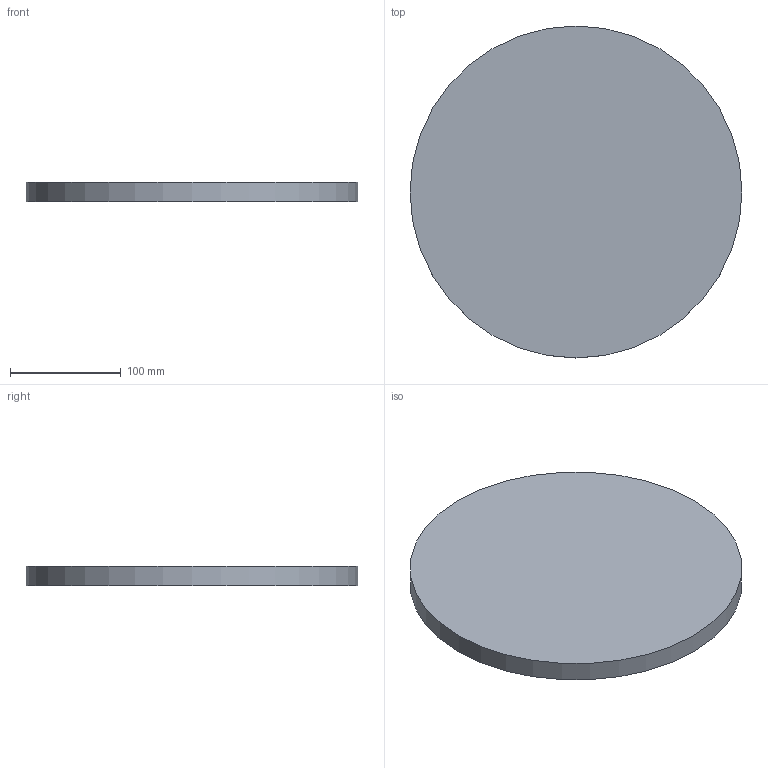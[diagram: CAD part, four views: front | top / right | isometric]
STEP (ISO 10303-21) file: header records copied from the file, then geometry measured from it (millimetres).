
FILE_DESCRIPTION(('Open CASCADE Model'),'2;1');
FILE_NAME('Open CASCADE Shape Model','2026-09-28T11:39:48',('Author'),( 'Open CASCADE'),'Open CASCADE STEP processor 7.9','Open CASCADE 7.9' ,'Unknown');
FILE_SCHEMA(('AUTOMOTIVE_DESIGN { 1 0 10303 214 1 1 1 1 }'));
Length unit declared in the file: millimetre
Products named in the file (2): disc-300; disc
Assembly tree (1 placements, depth 2):
  disc-300
    disc
Bounding box: 300 x 300 x 18 mm (x, y, z)
Volume: 1272345 mm3; surface area: 158336.3 mm2
Topology: 1 solids, 1 shells, 3 faces, 3 edges, 2 vertices
Faces by surface type: plane 2, cylinder 1
Full cylindrical faces by diameter (mm): 300 x1
Entity records: 135 total; most frequent: DIRECTION 21, CARTESIAN_POINT 16, AXIS2_PLACEMENT_3D 7, ORIENTED_EDGE 6, PCURVE 6, DEFINITIONAL_REPRESENTATION 6, LINE 5, VECTOR 5
